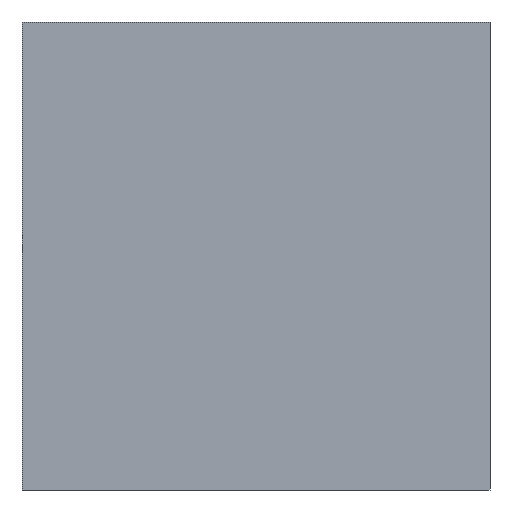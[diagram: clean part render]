
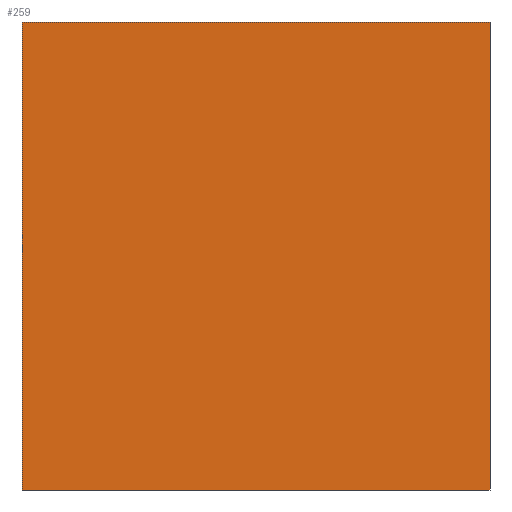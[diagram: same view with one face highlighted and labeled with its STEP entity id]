
A CAD part, front view. The second image highlights one B-rep face of the part: STEP entity #259.
In plain terms, the highlighted planar face has unit normal (0, -1, 0).
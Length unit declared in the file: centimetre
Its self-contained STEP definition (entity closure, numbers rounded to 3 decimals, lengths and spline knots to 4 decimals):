
#2 = VERTEX_POINT ( 'NONE', #223 ) ;
#22 = LINE ( 'NONE', #293, #279 ) ;
#62 = ORIENTED_EDGE ( 'NONE', *, *, #342, .F. ) ;
#77 = DIRECTION ( 'NONE',  ( 0., 0., -1. ) ) ;
#86 = DIRECTION ( 'NONE',  ( 0., 0., 1. ) ) ;
#90 = DIRECTION ( 'NONE',  ( 1., 0., 0. ) ) ;
#105 = ORIENTED_EDGE ( 'NONE', *, *, #213, .T. ) ;
#122 = LINE ( 'NONE', #187, #280 ) ;
#124 = VECTOR ( 'NONE', #256, 100. ) ;
#125 = PLANE ( 'NONE',  #160 ) ;
#126 = CARTESIAN_POINT ( 'NONE',  ( 0., 0., 1000. ) ) ;
#132 = EDGE_LOOP ( 'NONE', ( #105, #267, #62, #395 ) ) ;
#149 = CARTESIAN_POINT ( 'NONE',  ( 0., 0., 0. ) ) ;
#160 = AXIS2_PLACEMENT_3D ( 'NONE', #126, #392, #86 ) ;
#162 = CARTESIAN_POINT ( 'NONE',  ( 0., 0., 0. ) ) ;
#187 = CARTESIAN_POINT ( 'NONE',  ( 1000., 0., 1000. ) ) ;
#200 = CARTESIAN_POINT ( 'NONE',  ( 1000., 0., 1000. ) ) ;
#213 = EDGE_CURVE ( 'NONE', #307, #2, #390, .T. ) ;
#223 = CARTESIAN_POINT ( 'NONE',  ( 1000., 0., 0. ) ) ;
#236 = VERTEX_POINT ( 'NONE', #200 ) ;
#244 = EDGE_CURVE ( 'NONE', #362, #307, #22, .T. ) ;
#252 = CARTESIAN_POINT ( 'NONE',  ( 0., 0., 1000. ) ) ;
#256 = DIRECTION ( 'NONE',  ( 1., 0., 0. ) ) ;
#259 = ADVANCED_FACE ( 'NONE', ( #326 ), #125, .F. ) ;
#267 = ORIENTED_EDGE ( 'NONE', *, *, #338, .F. ) ;
#279 = VECTOR ( 'NONE', #422, 100. ) ;
#280 = VECTOR ( 'NONE', #77, 100. ) ;
#293 = CARTESIAN_POINT ( 'NONE',  ( 0., 0., 1000. ) ) ;
#307 = VERTEX_POINT ( 'NONE', #149 ) ;
#315 = LINE ( 'NONE', #349, #124 ) ;
#326 = FACE_OUTER_BOUND ( 'NONE', #132, .T. ) ;
#338 = EDGE_CURVE ( 'NONE', #236, #2, #122, .T. ) ;
#342 = EDGE_CURVE ( 'NONE', #362, #236, #315, .T. ) ;
#349 = CARTESIAN_POINT ( 'NONE',  ( 0., 0., 1000. ) ) ;
#362 = VERTEX_POINT ( 'NONE', #252 ) ;
#390 = LINE ( 'NONE', #162, #416 ) ;
#392 = DIRECTION ( 'NONE',  ( 0., 1., 0. ) ) ;
#395 = ORIENTED_EDGE ( 'NONE', *, *, #244, .T. ) ;
#416 = VECTOR ( 'NONE', #90, 100. ) ;
#422 = DIRECTION ( 'NONE',  ( 0., 0., -1. ) ) ;
